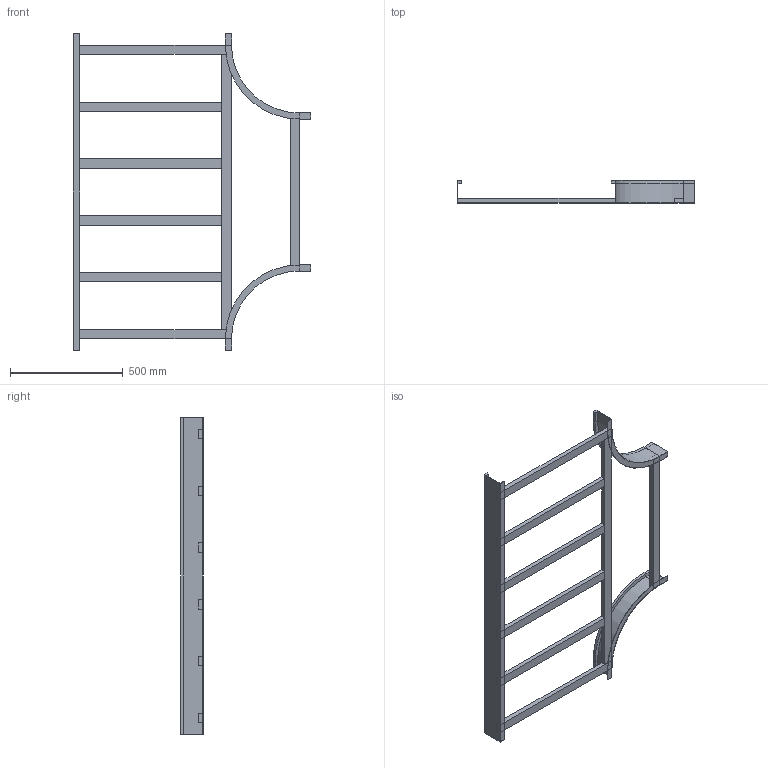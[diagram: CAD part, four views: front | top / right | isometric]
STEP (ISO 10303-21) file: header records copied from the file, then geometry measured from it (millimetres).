
FILE_DESCRIPTION (( 'STEP AP214' ), '1' );
FILE_NAME ('B2_15B3D700.step', '2025-02-21T15:50:23', ( '' ), ( '' ), 'SwSTEP 2.0', 'SolidWorks 2023', '' );
FILE_SCHEMA (( 'AUTOMOTIVE_DESIGN' ));
Length unit declared in the file: millimetre
Products named in the file (6): B2_15B3D700; TRAVERSINO_INTERMEDIO_R300+700; TRAVERSINO_700; B2_LONGH.INTERNO 90°_H100_R300; B2_LONGH.RETT_H100_R300+700; B2_TRAVERSINO_LONG._R300+700
Assembly tree (11 placements, depth 2):
  B2_15B3D700
    B2_LONGH.INTERNO 90°_H100_R300  x2
    B2_LONGH.RETT_H100_R300+700
    TRAVERSINO_700  x3
    B2_TRAVERSINO_LONG._R300+700
    TRAVERSINO_INTERMEDIO_R300+700  x4
Bounding box: 1050 x 100 x 1400 mm (x, y, z)
Volume: 5935203 mm3; surface area: 1464853.8 mm2
Topology: 11 solids, 11 shells, 110 faces, 232 edges, 144 vertices
Faces by surface type: plane 102, cylinder 8
Entity records: 1655 total; most frequent: DIRECTION 260, CARTESIAN_POINT 256, ORIENTED_EDGE 232, EDGE_CURVE 116, LINE 108, VECTOR 108, AXIS2_PLACEMENT_3D 76, VERTEX_POINT 72
